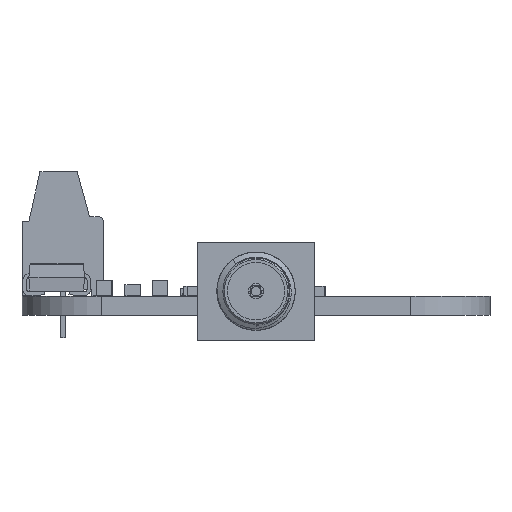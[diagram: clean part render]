
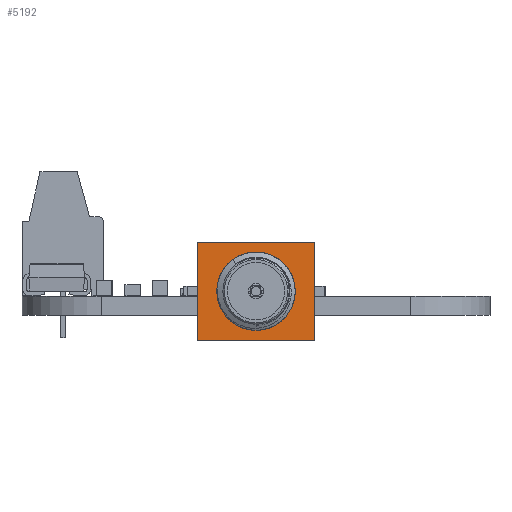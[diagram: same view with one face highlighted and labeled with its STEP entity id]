
A CAD part, left-side view. The second image highlights one B-rep face of the part: STEP entity #5192.
In plain terms, the highlighted planar face has unit normal (-1, 0, 0) as drawn and (0, 1, 0) by its records, which use the part's own axes.
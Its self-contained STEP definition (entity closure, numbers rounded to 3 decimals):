
#3665 = VERTEX_POINT('',#3666);
#3666 = CARTESIAN_POINT('',(0.,3.88,-3.685));
#3672 = EDGE_CURVE('',#3673,#3665,#3675,.T.);
#3673 = VERTEX_POINT('',#3674);
#3674 = CARTESIAN_POINT('',(0.,3.88,-9.035));
#3675 = CIRCLE('',#3676,2.675);
#3676 = AXIS2_PLACEMENT_3D('',#3677,#3678,#3679);
#3677 = CARTESIAN_POINT('',(0.,3.88,-6.36));
#3678 = DIRECTION('',(0.,-1.,0.));
#3679 = DIRECTION('',(0.,0.,1.));
#4596 = EDGE_CURVE('',#3665,#3673,#4597,.T.);
#4597 = CIRCLE('',#4598,2.675);
#4598 = AXIS2_PLACEMENT_3D('',#4599,#4600,#4601);
#4599 = CARTESIAN_POINT('',(0.,3.88,-6.36));
#4600 = DIRECTION('',(0.,-1.,0.));
#4601 = DIRECTION('',(0.,0.,1.));
#5192 = ADVANCED_FACE('',(#5193,#5197),#5231,.T.);
#5193 = FACE_BOUND('',#5194,.T.);
#5194 = EDGE_LOOP('',(#5195,#5196));
#5195 = ORIENTED_EDGE('',*,*,#3672,.T.);
#5196 = ORIENTED_EDGE('',*,*,#4596,.T.);
#5197 = FACE_BOUND('',#5198,.T.);
#5198 = EDGE_LOOP('',(#5199,#5209,#5217,#5225));
#5199 = ORIENTED_EDGE('',*,*,#5200,.T.);
#5200 = EDGE_CURVE('',#5201,#5203,#5205,.T.);
#5201 = VERTEX_POINT('',#5202);
#5202 = CARTESIAN_POINT('',(4.76,3.88,-2.4));
#5203 = VERTEX_POINT('',#5204);
#5204 = CARTESIAN_POINT('',(4.76,3.88,-10.32));
#5205 = LINE('',#5206,#5207);
#5206 = CARTESIAN_POINT('',(4.76,3.88,-2.4));
#5207 = VECTOR('',#5208,1.);
#5208 = DIRECTION('',(0.,0.,-1.));
#5209 = ORIENTED_EDGE('',*,*,#5210,.T.);
#5210 = EDGE_CURVE('',#5203,#5211,#5213,.T.);
#5211 = VERTEX_POINT('',#5212);
#5212 = CARTESIAN_POINT('',(-4.76,3.88,-10.32));
#5213 = LINE('',#5214,#5215);
#5214 = CARTESIAN_POINT('',(4.76,3.88,-10.32));
#5215 = VECTOR('',#5216,1.);
#5216 = DIRECTION('',(-1.,0.,0.));
#5217 = ORIENTED_EDGE('',*,*,#5218,.T.);
#5218 = EDGE_CURVE('',#5211,#5219,#5221,.T.);
#5219 = VERTEX_POINT('',#5220);
#5220 = CARTESIAN_POINT('',(-4.76,3.88,-2.4));
#5221 = LINE('',#5222,#5223);
#5222 = CARTESIAN_POINT('',(-4.76,3.88,-2.4));
#5223 = VECTOR('',#5224,1.);
#5224 = DIRECTION('',(0.,0.,1.));
#5225 = ORIENTED_EDGE('',*,*,#5226,.T.);
#5226 = EDGE_CURVE('',#5219,#5201,#5227,.T.);
#5227 = LINE('',#5228,#5229);
#5228 = CARTESIAN_POINT('',(4.76,3.88,-2.4));
#5229 = VECTOR('',#5230,1.);
#5230 = DIRECTION('',(1.,0.,0.));
#5231 = PLANE('',#5232);
#5232 = AXIS2_PLACEMENT_3D('',#5233,#5234,#5235);
#5233 = CARTESIAN_POINT('',(4.76,3.88,-10.32));
#5234 = DIRECTION('',(0.,1.,0.));
#5235 = DIRECTION('',(0.,0.,1.));
